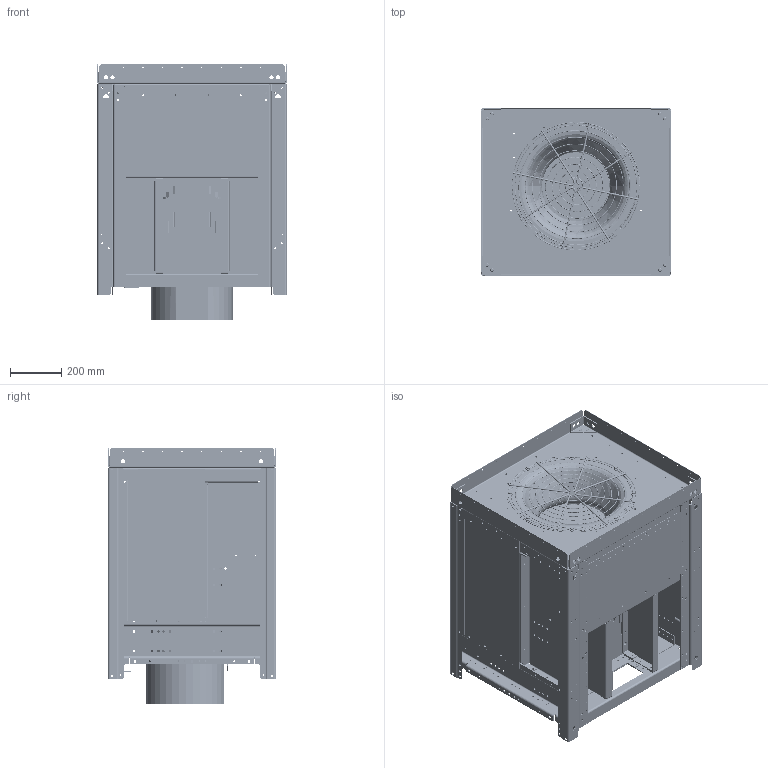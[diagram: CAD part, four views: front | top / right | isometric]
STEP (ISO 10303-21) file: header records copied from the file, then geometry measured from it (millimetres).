
FILE_DESCRIPTION((''),'2;1');
FILE_NAME('165_100_254T_ASM_ASM','2016-08-03T',('cthatcc'),(''),'CREO PARAMETRIC BY PTC INC, 2016050','CREO PARAMETRIC BY PTC INC, 2016050','');
FILE_SCHEMA(('CONFIG_CONTROL_DESIGN'));
Length unit declared in the file: inch
Products named in the file (78): 0575820013_1_1; 0575830005_1_1; 0575740009_1_1; 0575880007_1_1; 0578340001_1_1; 057834_MIR_1_1; 0575820013_MIR_1_1; 0575990013_ASM_2_ASM_1_ASM; 0575680020; NEMA_254T_TEFC_1_1; 0575690007_1_1; 0576650021_1_1; 0579720005_1_1; 0579720005_B_1_1; 0575650011_5_1; 0575760005_8_1; 0575880008_1_1; 057581_1_1; NUT-INSERT_RIVET_31-18THD_1_1; WA012_1_1; HCS048_2_1; 0575660010_1_1; 0575700016_1_1; 0575790026_1_1; 0575890009_ASM_1_ASM_1_ASM; 0575660011_1_1; 0575700017_1_1; 0575790027_1_1; 0575890010_ASM_1_ASM_1_ASM; 058559_1_1; INLETGUARD_165_1_1; RING_Z_1_1; RING_AB_1_1; ROD_165_1_1; 0576560005_ASM_1_ASM_1_ASM; 0585510021_1_1; 0585510021_MIR_1_1; 0585510022_1_1; 0585560009_1_1; 0575700020_1_1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
Assembly tree (195 placements, depth 6):
  165_100_254T_ASM_ASM
    165_100_254T_ASM_ASM_1_ASM
      165_100_254T_TRANE_ASM_20_ASM_1_ASM
        0575990013_ASM_2_ASM_1_ASM  x2
          0575820013_1_1
          0575830005_1_1
          0575740009_1_1
          0575880007_1_1
          0578340001_1_1
          057834_MIR_1_1
          0575820013_MIR_1_1
        0575680020
        NEMA_254T_TEFC_1_1
        0575690007_1_1
        0576650021_1_1
        0579720005_1_1
        0579720005_B_1_1
        0575650011_5_1
        0575760005_8_1
        0575880008_1_1  x3
        057581_1_1  x4
        NUT-INSERT_RIVET_31-18THD_1_1  x8
        WA012_1_1  x8
        HCS048_2_1  x8
        0575890009_ASM_1_ASM_1_ASM
          0575660010_1_1
          0575700016_1_1
          0575790026_1_1
        0575890010_ASM_1_ASM_1_ASM
          0575660011_1_1
          0575700017_1_1
          0575790027_1_1
        058559_1_1
        0576560005_ASM_1_ASM_1_ASM
          INLETGUARD_165_1_1
          RING_Z_1_1
          RING_AB_1_1
          ROD_165_1_1  x4
        0585510021_1_1
        0585510021_MIR_1_1
        0585510022_1_1  x2
        0585570010_ASM_4_ASM_1_ASM
          0585560009_1_1
          0575700020_1_1
          0579710005_1_1
        0585580010_ASM_4_ASM_1_ASM
          0585560009_MIR_1_1
          0575700020_1_1
          0579710005_MIR_1_1
        WHEEL_DUMMY_165_100_1_1
        057699-165_ASM_40_ASM_1_ASM
          057699-165__ASM_4_ASM_1_ASM
            057699-165-001_4_1
            057699-165-012_4_1
            057699-165-002_4_1
            057699-165-010_4_1
            057699-165-013_4_1
            057699-165-004_4_1  x15
            057699-165-008_4_1  x15
            057699-165-014__4_1  x2
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Bounding box: 737.36 x 654.3 x 995.12 mm (x, y, z)
Volume: 116177956.9 mm3; surface area: 16012929.4 mm2
Topology: 191 solids, 191 shells, 5358 faces, 13585 edges, 8664 vertices
Faces by surface type: cylinder 3175, plane 1873, torus 164, bspline 88, cone 58
Entity records: 124023 total; most frequent: CARTESIAN_POINT 33926, DIRECTION 19916, ORIENTED_EDGE 17182, EDGE_CURVE 8591, AXIS2_PLACEMENT_3D 7800, VERTEX_POINT 5426, EDGE_LOOP 4869, VECTOR 4316
